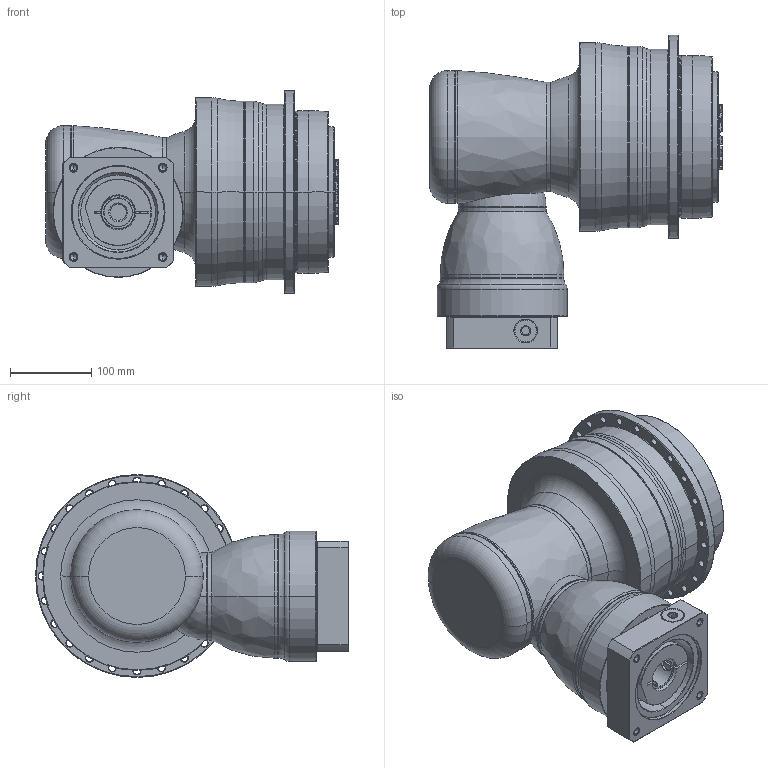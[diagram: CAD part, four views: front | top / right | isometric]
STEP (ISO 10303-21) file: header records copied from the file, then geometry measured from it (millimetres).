
FILE_DESCRIPTION((''),'2;1');
FILE_NAME('APCK200_3ST_35-P0409800201_ASM','2018-05-14T',('d01226'),(''),'PRO/ENGINEER BY PARAMETRIC TECHNOLOGY CORPORATION, 2008410','PRO/ENGINEER BY PARAMETRIC TECHNOLOGY CORPORATION, 2008410','');
FILE_SCHEMA(('CONFIG_CONTROL_DESIGN'));
Length unit declared in the file: millimetre
Products named in the file (13): P1008500002; P1832600001; P0278601003; P0359660103; P1211600001; P1315500001; P1007501001; P1318501301; P0409800201; P0503800012; P0912503001; 21711422019; APCK200_3ST_35-P0409800201_ASM
Assembly tree (12 placements, depth 2):
  APCK200_3ST_35-P0409800201_ASM
    P1008500002
    P1832600001
    P0278601003
    P0359660103
    P1211600001
    P1315500001
    P1007501001
    P1318501301
    P0409800201
    P0503800012
    P0912503001
    21711422019
Bounding box: 359.6 x 384.75 x 249.5 mm (x, y, z)
Volume: 12612435.3 mm3; surface area: 931664.6 mm2
Topology: 13 solids, 23 shells, 706 faces, 1651 edges, 1002 vertices
Faces by surface type: cone 224, cylinder 218, plane 129, torus 112, bspline 21, sphere 2
Entity records: 25880 total; most frequent: CARTESIAN_POINT 9167, DIRECTION 3768, ORIENTED_EDGE 3232, AXIS2_PLACEMENT_3D 1646, EDGE_CURVE 1637, VERTEX_POINT 1002, CIRCLE 926, EDGE_LOOP 815
